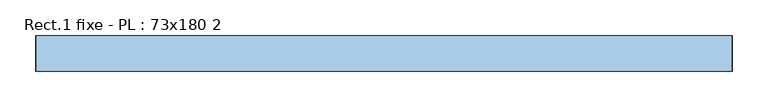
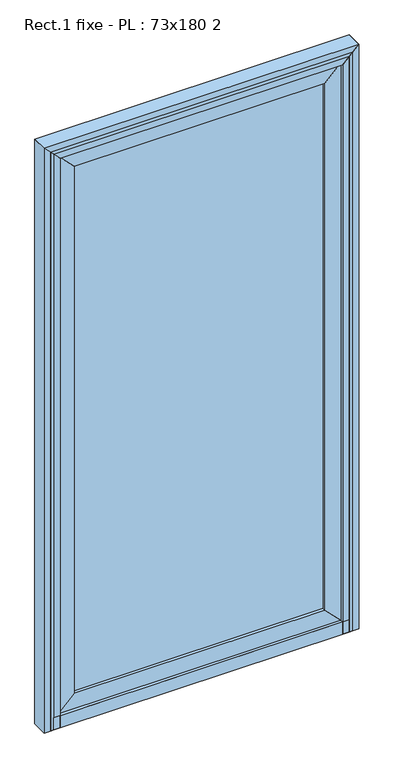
"""IFC4 building model written with IfcOpenShell, lengths in millimetres: window geometry, Rect.1 fixe - PL : 73x180 2."""

from ifc_helpers import new_model, si_unit, frame, origin, origin_with_axes, place, context, project, spatial, polyline, outline, extrude, source, transform, mapped, element, save


def rect_1_fixe_pl_73x180_2_45d58e0e(model_context):
    return source(origin(), model_context, "Body", "SweptSolid", [
        extrude(outline(polyline([(390.0, -10.0), (390.0, -30.0), (-390.0, -30.0), (-390.0, -10.0), (390.0, -10.0)])), frame((0.0, 0.0, 90.0), z_axis=(0.0, 0.0, 1.0), x_axis=(1.0, 0.0, 0.0)), (0.0, 0.0, 1.0), 1733.0),
        extrude(outline(polyline([(40.0, -440.0), (90.0, -390.0), (1823.0, -390.0), (1873.0, -440.0), (40.0, -440.0)])), frame((0.0, -40.0, 0.0), z_axis=(0.0, 1.0, 0.0), x_axis=(0.0, 0.0, 1.0)), (0.0, 0.0, 1.0), 40.0),
        extrude(outline(polyline([(90.0, 390.0), (40.0, 440.0), (1873.0, 440.0), (1823.0, 390.0), (90.0, 390.0)])), frame((0.0, -40.0, 0.0), z_axis=(0.0, 1.0, 0.0), x_axis=(0.0, 0.0, 1.0)), (0.0, 0.0, 1.0), 40.0),
        extrude(outline(polyline([(1873.0, 440.0), (1873.0, -440.0), (1823.0, -390.0), (1823.0, 390.0), (1873.0, 440.0)])), frame((0.0, -40.0, 0.0), z_axis=(0.0, 1.0, 0.0), x_axis=(0.0, 0.0, 1.0)), (0.0, 0.0, 1.0), 40.0),
        extrude(outline(polyline([(40.0, 440.0), (90.0, 390.0), (90.0, -390.0), (40.0, -440.0), (40.0, 440.0)])), frame((0.0, -40.0, 0.0), z_axis=(0.0, 1.0, 0.0), x_axis=(0.0, 0.0, 1.0)), (0.0, 0.0, 1.0), 40.0),
        extrude(outline(polyline([(440.0, -50.0), (-440.0, -50.0), (-440.0, 0.0), (440.0, 0.0), (440.0, -50.0)])), origin_with_axes(), (0.0, 0.0, 1.0), 40.0),
        extrude(outline(polyline([(-20.0, 30.0), (-20.0, 0.0), (-50.0, 0.0), (-50.0, 40.0), (-20.0, 30.0)])), frame((-460.0, 0.0, 0.0), z_axis=(1.0, 0.0, 0.0), x_axis=(0.0, 1.0, 0.0)), (0.0, 0.0, 1.0), 920.0),
        extrude(outline(polyline([(1903.0, 470.0), (1893.0, 460.0), (0.0, 460.0), (0.0, 470.0), (1903.0, 470.0)])), frame((0.0, -50.0, 0.0), z_axis=(0.0, 1.0, 0.0), x_axis=(0.0, 0.0, 1.0)), (0.0, 0.0, 1.0), 40.0),
        extrude(outline(polyline([(1903.0, -470.0), (0.0, -470.0), (0.0, -460.0), (1893.0, -460.0), (1903.0, -470.0)])), frame((0.0, -50.0, 0.0), z_axis=(0.0, 1.0, 0.0), x_axis=(0.0, 0.0, 1.0)), (0.0, 0.0, 1.0), 40.0),
        extrude(outline(polyline([(0.0, -490.0), (0.0, -440.0), (1873.0, -440.0), (1923.0, -490.0), (0.0, -490.0)])), frame((0.0, -50.0, 0.0), z_axis=(0.0, 1.0, 0.0), x_axis=(0.0, 0.0, 1.0)), (0.0, 0.0, 1.0), 50.0),
        extrude(outline(polyline([(0.0, 490.0), (1923.0, 490.0), (1873.0, 440.0), (0.0, 440.0), (0.0, 490.0)])), frame((0.0, -50.0, 0.0), z_axis=(0.0, 1.0, 0.0), x_axis=(0.0, 0.0, 1.0)), (0.0, 0.0, 1.0), 50.0),
        extrude(outline(polyline([(1903.0, -470.0), (1893.0, -460.0), (1893.0, 460.0), (1903.0, 470.0), (1903.0, -470.0)])), frame((0.0, -50.0, 0.0), z_axis=(0.0, 1.0, 0.0), x_axis=(0.0, 0.0, 1.0)), (0.0, 0.0, 1.0), 40.0),
        extrude(outline(polyline([(1923.0, 490.0), (1923.0, -490.0), (1873.0, -440.0), (1873.0, 440.0), (1923.0, 490.0)])), frame((0.0, -50.0, 0.0), z_axis=(0.0, 1.0, 0.0), x_axis=(0.0, 0.0, 1.0)), (0.0, 0.0, 1.0), 50.0),
    ])


if __name__ == "__main__":
    model = new_model("IFC4")
    model_context = context("Model", 3, world=origin())
    ifc_project = project(units=[si_unit("LENGTHUNIT", "METRE", prefix="MILLI")], contexts=[model_context])
    site = spatial("IfcSite", under=ifc_project)
    building = spatial("IfcBuilding", under=site)
    placement = place(None, origin())
    rect_1_fixe_pl_73x180_2_shape = rect_1_fixe_pl_73x180_2_45d58e0e(model_context)
    element("IfcWindow", 1, ObjectType="Rect.1 fixe - PL : 73x180 2", at=placement, inside=building, context=model_context, shape_type="MappedRepresentation", body=[
        mapped(rect_1_fixe_pl_73x180_2_shape, transform((0.0, 0.0, 0.0), x_axis=(1.0, 0.0, 0.0), y_axis=(0.0, 1.0, 0.0), z_axis=(0.0, 0.0, 1.0))),
    ])
    save(model, "model.ifc")
